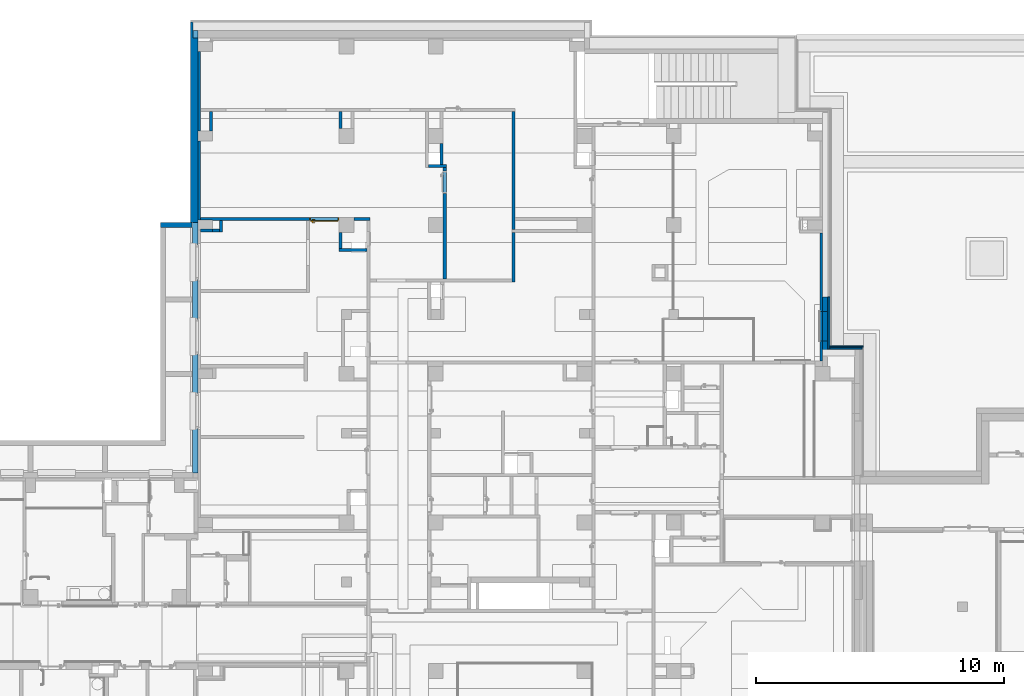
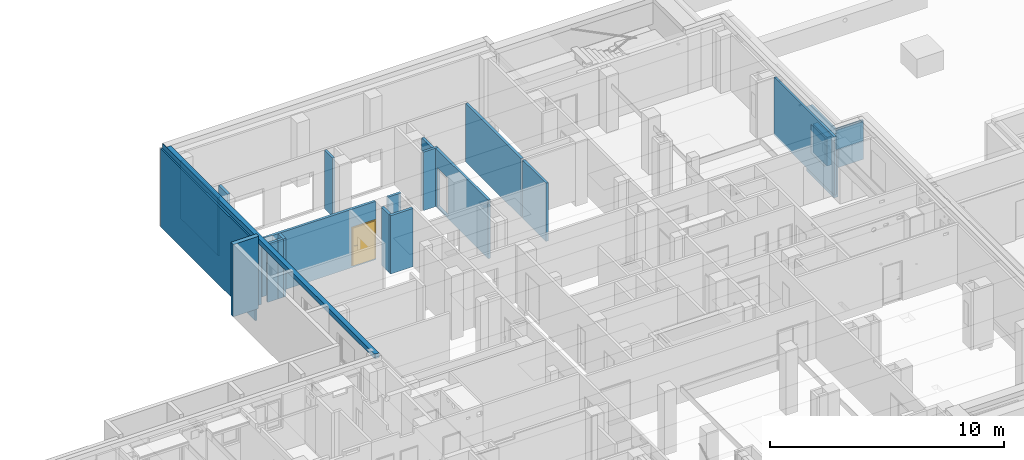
# One storey, part 40 of 84: 25 walls, 1 door, 4 openings.
"""IFC4 building model written with IfcOpenShell, lengths in metres."""

from ifc_helpers import new_model, entity, si_unit, converted_unit, derived_unit, frame, frame_2d, origin, origin_with_axes, place, context, subcontext, project, spatial, polyline, rectangle, outline, extrude, clip, bounded_halfspace, closed_shell, open_shell, surface_model, source, transform, mapped, material, layer, layer_set, layer_usage, type_object, element, fill, save


model = new_model("IFC4")

# Units and contexts
model_context = context("Model", 3, precision=1e-05, world=origin())
body_context = subcontext(model_context, "Body", "Model", "MODEL_VIEW")
ifc_project = project(units=[si_unit("LENGTHUNIT", "METRE"), si_unit("AREAUNIT", "SQUARE_METRE"), si_unit("VOLUMEUNIT", "CUBIC_METRE"), si_unit("MASSUNIT", "GRAM", prefix="KILO"), converted_unit("PLANEANGLEUNIT", "DEGREE", entity("IfcPlaneAngleMeasure", 0.0174532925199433), si_unit("PLANEANGLEUNIT", "RADIAN"), dimensions=[0, 0, 0, 0, 0, 0, 0]), derived_unit("THERMALTRANSMITTANCEUNIT", [(si_unit("POWERUNIT", "WATT"), 1), (si_unit("THERMODYNAMICTEMPERATUREUNIT", "KELVIN"), -1), (si_unit("LENGTHUNIT", "METRE"), -2)]), derived_unit("VOLUMETRICFLOWRATEUNIT", [(si_unit("LENGTHUNIT", "METRE"), 3), (converted_unit("TIMEUNIT", "hour", entity("IfcTimeMeasure", 3600.0), si_unit("TIMEUNIT", "SECOND"), dimensions=[0, 0, 1, 0, 0, 0, 0]), -1), (si_unit("LENGTHUNIT", "METRE"), -1)])], contexts=[model_context])

# Site, building, storey
site_placement = place(None, origin())
site = spatial("IfcSite", under=ifc_project, at=site_placement, Name="3. ASŘ", CompositionType="ELEMENT")
building_placement = place(site_placement, origin())
building = spatial("IfcBuilding", under=site, at=building_placement, Name="Pavilon C", CompositionType="ELEMENT")
storey_placement = place(building_placement, frame((0.0, 0.0, -3.3)))
storey = spatial("IfcBuildingStorey", under=building, at=storey_placement, Name="Půdorys 1.PP", CompositionType="ELEMENT", Elevation=-3.3)

# Walls
ifc_material_1 = material(Name="ZELEZOBETONOVÁ KCE")
ifc_layer_1 = layer(ifc_material_1, 0.199999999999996)
ifc_material_2 = material(Name="LIGNOPOR")
ifc_layer_2 = layer(ifc_material_2, 0.025)
ifc_material_3 = material(Name="PÓROBETONOVÉ ZDIVO")
ifc_layer_3 = layer(ifc_material_3, 0.08)
ifc_layer_set_1 = layer_set([ifc_layer_1, ifc_layer_2, ifc_layer_3])
ifc_layer_usage_1 = layer_usage(ifc_layer_set_1, "AXIS2", "POSITIVE", 0.0)
wall_1_placement = place(storey_placement, frame((24.75, 25.3, -1.15), z_axis=(0.0, 0.0, 1.0), x_axis=(4.88319302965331e-16, 1.0, 0.0)))
element("IfcWall", 1, at=wall_1_placement, inside=storey, material=ifc_layer_usage_1, Name="ZELEZOBETONOVÁ KCE", context=body_context, shape_type="Clipping", body=[
    clip(clip(extrude(outline(polyline([(1.48937387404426e-16, -0.305), (7.45, -0.305), (7.45, -0.105), (8.07, -0.105), (8.07, -0.0799999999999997), (8.095, -0.0799999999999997), (8.095, 3.14965950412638e-16), (0.0, 0.0), (1.48937387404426e-16, -0.305)])), frame((-1.48937387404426e-16, 0.305, 0.0), z_axis=(0.0, 0.0, 1.0), x_axis=(1.0, 0.0, 0.0)), (0.0, 0.0, 1.0), 4.1), bounded_halfspace(frame((3.725, 0.100000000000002, 0.750000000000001), z_axis=(0.0, 0.0, 1.0), x_axis=(4.88319302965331e-16, -1.0, 0.0)), True, origin_with_axes(), polyline([(-9.76638605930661e-17, 0.2), (0.0, 0.0), (7.45, 2.01948391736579e-30), (7.45, 0.2), (-9.76638605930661e-17, 0.2)]))), bounded_halfspace(frame((4.718, 0.210000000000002, 1.15), z_axis=(0.0, 0.0, 1.0), x_axis=(4.88319302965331e-16, -1.0, 0.0)), True, origin_with_axes(), polyline([(-1.09871843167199e-16, 0.225), (-9.76638605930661e-17, 0.2), (7.45, 0.2), (8.07, 0.2), (8.07, 0.225), (-1.09871843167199e-16, 0.225)]))),
])
ifc_material_4 = material(Name="ZELEZOBETONOVÁ KCE")
ifc_layer_4 = layer(ifc_material_4, 0.2)
ifc_layer_set_2 = layer_set([ifc_layer_4])
ifc_layer_usage_2 = layer_usage(ifc_layer_set_2, "AXIS2", "POSITIVE", -0.1)
wall_2_placement = place(storey_placement, frame((23.245, 25.1, -0.4)))
element("IfcWall", 2, at=wall_2_placement, inside=storey, material=ifc_layer_usage_2, Name="ZELEZOBETONOVÁ KCE", context=body_context, shape_type="SweptSolid", body=[
    extrude(rectangle(XDim=1.26, YDim=0.2, at=frame_2d((0.63, 0.1), x_axis=(1.0, 0.0))), origin_with_axes(), (0.0, 0.0, 1.0), 3.78),
])

# Wall, opening
ifc_material_5 = material(Name="ZELEZOBETONOVÁ KCE")
ifc_layer_5 = layer(ifc_material_5, 0.2)
ifc_material_6 = material(Name="LIGNOPOR")
ifc_layer_6 = layer(ifc_material_6, 0.025)
ifc_material_7 = material(Name="PÓROBETONOVÉ ZDIVO")
ifc_layer_7 = layer(ifc_material_7, 0.08)
ifc_layer_set_3 = layer_set([ifc_layer_5, ifc_layer_6, ifc_layer_7])
ifc_layer_usage_3 = layer_usage(ifc_layer_set_3, "AXIS2", "POSITIVE", 0.0)
wall_3_placement = place(storey_placement, frame((49.95, 22.3, -0.4), z_axis=(0.0, 0.0, 1.0), x_axis=(0.0, -1.0, 0.0)))
wall_3 = element("IfcWall", 3, at=wall_3_placement, inside=storey, material=ifc_layer_usage_3, Name="ZELEZOBETONOVÁ KCE", context=body_context, shape_type="Clipping", body=[
    clip(clip(extrude(outline(polyline([(-2.38, 0.0), (0.0, 0.0), (0.0, 0.2), (-0.25, 0.2), (-0.25, 0.225), (-0.275, 0.225), (-0.275, 0.305), (-2.38, 0.305), (-2.38, 0.0)])), frame((2.38, 0.0, 0.0), z_axis=(0.0, 0.0, 1.0), x_axis=(1.0, 0.0, 0.0)), (0.0, 0.0, 1.0), 3.35), bounded_halfspace(frame((1.273, 0.215000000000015, 0.4), z_axis=(0.0, 0.0, 1.0), x_axis=(-1.0, 0.0, 0.0)), True, origin_with_axes(), polyline([(2.105, 0.225000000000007), (0.0, 0.225000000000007), (0.0, 0.2), (2.13, 0.200000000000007), (2.13, 0.225000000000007), (2.105, 0.225000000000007)]))), bounded_halfspace(frame((1.0525, 0.265000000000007, 1.3), z_axis=(0.0, 0.0, -1.0), x_axis=(1.0, 0.0, 0.0)), True, origin_with_axes(), polyline([(0.0, 0.225000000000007), (2.105, 0.225000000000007), (2.105, 0.305000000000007), (0.0, 0.305000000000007), (0.0, 0.225000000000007)]))),
])
opening_1_placement = place(wall_3_placement, frame((1.78, 0.2, 1.3), z_axis=(0.0, -1.0, 0.0), x_axis=(0.0, 0.0, 1.0)))
element("IfcOpeningElement", 4, at=opening_1_placement, cuts=wall_3, Name="Okenní otvor", ObjectType="Opening", context=body_context, shape_type="SweptSolid", body=[
    extrude(outline(polyline([(0.0, 1.2), (1.5, 1.2), (1.5, 0.0), (0.0, 0.0), (0.0, 1.2)])), origin_with_axes(), (0.0, 0.0, 1.0), 0.2),
    extrude(outline(polyline([(0.0, 1.2), (1.5, 1.2), (1.5, 0.0), (0.0, 0.0), (0.0, 1.2)])), frame((0.0, 0.0, -0.025), z_axis=(0.0, 0.0, 1.0), x_axis=(1.0, 0.0, 0.0)), (0.0, 0.0, 1.0), 0.025),
    extrude(outline(polyline([(0.0, 1.2), (1.5, 1.2), (1.5, 0.0), (0.0, 0.0), (0.0, 1.2)])), frame((0.0, 0.0, -0.105), z_axis=(0.0, 0.0, 1.0), x_axis=(1.0, 0.0, 0.0)), (0.0, 0.0, 1.0), 0.08),
])

ifc_material_8 = material(Name="PÓROBETONOVÉ ZDIVO")
ifc_layer_8 = layer(ifc_material_8, 0.1)
ifc_layer_set_4 = layer_set([ifc_layer_8])
ifc_layer_usage_4 = layer_usage(ifc_layer_set_4, "AXIS2", "POSITIVE", 0.0)
wall_4_placement = place(storey_placement, frame((49.95, 19.725, -0.1), z_axis=(0.0, 0.0, 1.0), x_axis=(0.0, 1.0, 0.0)))
wall_4 = element("IfcWall", 5, at=wall_4_placement, inside=storey, material=ifc_layer_usage_4, Name="PÓROBETONOVÉ ZDIVO", context=body_context, shape_type="SweptSolid", body=[
    extrude(rectangle(XDim=5.15, YDim=0.1, at=frame_2d((2.575, 0.05), x_axis=(1.0, 0.0))), origin_with_axes(), (0.0, 0.0, 1.0), 3.05),
])
opening_2_placement = place(wall_4_placement, frame((1.99499999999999, 0.1, 1.0), z_axis=(0.0, -1.0, 0.0), x_axis=(0.0, 0.0, 1.0)))
element("IfcOpeningElement", 6, at=opening_2_placement, cuts=wall_4, Name="Okenní otvor", ObjectType="Opening", context=body_context, shape_type="SweptSolid", body=[
    extrude(outline(polyline([(0.0, 1.2), (1.5, 1.2), (1.5, 0.0), (0.0, 0.0), (0.0, 1.2)])), origin_with_axes(), (0.0, 0.0, 1.0), 0.1),
])

# Walls
ifc_material_9 = material(Name="ZDIVO Z CDm")
ifc_layer_9 = layer(ifc_material_9, 0.125)
ifc_layer_set_5 = layer_set([ifc_layer_9])
ifc_layer_usage_5 = layer_usage(ifc_layer_set_5, "AXIS2", "POSITIVE", 0.0)
wall_5_placement = place(storey_placement, frame((31.7, 25.5, -0.1), z_axis=(0.0, 0.0, 1.0), x_axis=(-1.0, 0.0, 0.0)))
element("IfcWall", 7, at=wall_5_placement, inside=storey, material=ifc_layer_usage_5, Name="ZDIVO Z CDm", context=body_context, shape_type="SweptSolid", body=[
    extrude(rectangle(XDim=0.649999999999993, YDim=0.125, at=frame_2d((0.324999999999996, 0.0625), x_axis=(1.0, 0.0))), origin_with_axes(), (0.0, 0.0, 1.0), 3.05),
])
ifc_material_10 = material(Name="ZDIVO Z CDm")
ifc_layer_10 = layer(ifc_material_10, 0.125)
ifc_layer_set_6 = layer_set([ifc_layer_10])
ifc_layer_usage_6 = layer_usage(ifc_layer_set_6, "AXIS2", "POSITIVE", 0.0)
wall_6_placement = place(storey_placement, frame((30.45, 24.125, -0.1)))
element("IfcWall", 8, at=wall_6_placement, inside=storey, material=ifc_layer_usage_6, Name="ZDIVO Z CDm", context=body_context, shape_type="SweptSolid", body=[
    extrude(rectangle(XDim=1.12499999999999, YDim=0.125, at=frame_2d((0.562499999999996, 0.0625), x_axis=(1.0, 0.0))), origin_with_axes(), (0.0, 0.0, 1.0), 3.05),
])
ifc_material_11 = material(Name="ZDIVO Z CDm")
ifc_layer_11 = layer(ifc_material_11, 0.125)
ifc_layer_set_7 = layer_set([ifc_layer_11])
ifc_layer_usage_7 = layer_usage(ifc_layer_set_7, "AXIS2", "POSITIVE", 0.0)
wall_7_placement = place(storey_placement, frame((30.45, 24.9, -0.1), z_axis=(0.0, 0.0, 1.0), x_axis=(0.0, -1.0, 0.0)))
element("IfcWall", 9, at=wall_7_placement, inside=storey, material=ifc_layer_usage_7, Name="ZDIVO Z CDm", context=body_context, shape_type="SweptSolid", body=[
    extrude(rectangle(XDim=0.65, YDim=0.125, at=frame_2d((0.325, 0.0625), x_axis=(1.0, 0.0))), origin_with_axes(), (0.0, 0.0, 1.0), 3.05),
])
ifc_material_12 = material(Name="ZDIVO Z CDm")
ifc_layer_12 = layer(ifc_material_12, 0.125)
ifc_layer_set_8 = layer_set([ifc_layer_12])
ifc_layer_usage_8 = layer_usage(ifc_layer_set_8, "AXIS2", "POSITIVE", 0.0)
wall_8_placement = place(storey_placement, frame((25.75, 24.925, -0.1), z_axis=(0.0, 0.0, 1.0), x_axis=(0.0, 1.0, 0.0)))
element("IfcWall", 10, at=wall_8_placement, inside=storey, material=ifc_layer_usage_8, Name="ZDIVO Z CDm", context=body_context, shape_type="SweptSolid", body=[
    extrude(rectangle(XDim=0.45, YDim=0.125, at=frame_2d((0.225, 0.0625), x_axis=(1.0, 0.0))), origin_with_axes(), (0.0, 0.0, 1.0), 3.05),
])
ifc_material_13 = material(Name="ZDIVO Z CDm")
ifc_layer_13 = layer(ifc_material_13, 0.125)
ifc_layer_set_9 = layer_set([ifc_layer_13])
ifc_layer_usage_9 = layer_usage(ifc_layer_set_9, "AXIS2", "POSITIVE", 0.0)
wall_9_placement = place(storey_placement, frame((25.35, 24.925, -0.1)))
element("IfcWall", 11, at=wall_9_placement, inside=storey, material=ifc_layer_usage_9, Name="ZDIVO Z CDm", context=body_context, shape_type="SweptSolid", body=[
    extrude(rectangle(XDim=0.275000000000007, YDim=0.125, at=frame_2d((0.137500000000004, 0.0625), x_axis=(1.0, 0.0))), origin_with_axes(), (0.0, 0.0, 1.0), 3.05),
])
ifc_material_14 = material(Name="ZDIVO Z CDm")
ifc_layer_14 = layer(ifc_material_14, 0.125)
ifc_layer_set_10 = layer_set([ifc_layer_14])
ifc_layer_usage_10 = layer_usage(ifc_layer_set_10, "AXIS2", "POSITIVE", 0.0)
wall_10_placement = place(storey_placement, frame((24.85, 24.925, -0.1)))
element("IfcWall", 12, at=wall_10_placement, inside=storey, material=ifc_layer_usage_10, Name="ZDIVO Z CDm", context=body_context, shape_type="SweptSolid", body=[
    extrude(rectangle(XDim=0.499999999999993, YDim=0.125, at=frame_2d((0.249999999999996, 0.0625), x_axis=(1.0, 0.0))), origin_with_axes(), (0.0, 0.0, 1.0), 3.05),
])
ifc_material_15 = material(Name="ZDIVO Z CDm")
wall_11_placement = place(storey_placement, frame((37.555, 22.905, -0.1), z_axis=(0.0, 0.0, 1.0), x_axis=(0.0, 1.0, 0.0)))
element("IfcWall", 13, at=wall_11_placement, inside=storey, material=ifc_material_15, Name="ZDIVO Z CDm", context=body_context, shape_type="SweptSolid", body=[
    extrude(rectangle(XDim=4.76, YDim=0.125, at=frame_2d((2.38, 0.0625), x_axis=(1.0, 0.0))), frame((2.12, 0.0, 0.0), z_axis=(0.0, 0.0, 1.0), x_axis=(1.0, 0.0, 0.0)), (0.0, 0.0, 1.0), 3.05),
    extrude(rectangle(XDim=0.125, YDim=1.995, at=frame_2d((0.9975, -0.0625), x_axis=(0.0, -1.0))), frame((0.0, 0.125, 0.0), z_axis=(0.0, 0.0, 1.0), x_axis=(1.0, 0.0, 0.0)), (0.0, 0.0, 1.0), 3.05),
])
ifc_material_16 = material(Name="ZDIVO Z CDm")
ifc_layer_15 = layer(ifc_material_16, 0.125)
ifc_layer_set_11 = layer_set([ifc_layer_15])
ifc_layer_usage_11 = layer_usage(ifc_layer_set_11, "AXIS2", "POSITIVE", 0.0)
wall_12_placement = place(storey_placement, frame((30.45, 29.785, -0.1), z_axis=(0.0, 0.0, 1.0), x_axis=(0.0, -1.0, 0.0)))
element("IfcWall", 14, at=wall_12_placement, inside=storey, material=ifc_layer_usage_11, Name="ZDIVO Z CDm", context=body_context, shape_type="SweptSolid", body=[
    extrude(rectangle(XDim=0.685, YDim=0.125, at=frame_2d((0.3425, 0.0625), x_axis=(1.0, 0.0))), origin_with_axes(), (0.0, 0.0, 1.0), 3.05),
])
ifc_material_17 = material(Name="ZDIVO Z CDm")
ifc_layer_16 = layer(ifc_material_17, 0.125)
ifc_layer_set_12 = layer_set([ifc_layer_16])
ifc_layer_usage_12 = layer_usage(ifc_layer_set_12, "AXIS2", "POSITIVE", 0.0)
wall_13_placement = place(storey_placement, frame((34.05, 27.525, -0.1)))
element("IfcWall", 15, at=wall_13_placement, inside=storey, material=ifc_layer_usage_12, Name="ZDIVO Z CDm", context=body_context, shape_type="SweptSolid", body=[
    extrude(rectangle(XDim=0.725, YDim=0.125, at=frame_2d((0.3625, 0.0625), x_axis=(1.0, 0.0))), origin_with_axes(), (0.0, 0.0, 1.0), 3.05),
])

# Wall, opening
ifc_material_18 = material(Name="ZDIVO Z CDm")
ifc_layer_17 = layer(ifc_material_18, 0.125)
ifc_layer_set_13 = layer_set([ifc_layer_17])
ifc_layer_usage_13 = layer_usage(ifc_layer_set_13, "AXIS2", "POSITIVE", 0.0)
wall_14_placement = place(storey_placement, frame((34.65, 27.525, -0.1), z_axis=(0.0, 0.0, 1.0), x_axis=(0.0, -1.0, 0.0)))
wall_14 = element("IfcWall", 16, at=wall_14_placement, inside=storey, material=ifc_layer_usage_13, Name="ZDIVO Z CDm", context=body_context, shape_type="SweptSolid", body=[
    extrude(rectangle(XDim=4.495, YDim=0.125, at=frame_2d((2.2475, 0.0625), x_axis=(1.0, 0.0))), origin_with_axes(), (0.0, 0.0, 1.0), 3.05),
])
opening_3_placement = place(wall_14_placement, frame((0.150000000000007, 0.0, 0.1), z_axis=(0.0, 1.0, 0.0), x_axis=(0.0, 0.0, 1.0)))
element("IfcOpeningElement", 17, at=opening_3_placement, cuts=wall_14, Name="Dveřní otvor", ObjectType="Opening", context=body_context, shape_type="SweptSolid", body=[
    extrude(outline(polyline([(0.0, 0.9), (2.02, 0.9), (2.02, 0.0), (0.0, 0.0), (0.0, 0.9)])), origin_with_axes(), (0.0, 0.0, 1.0), 0.125),
])

# Walls
ifc_material_19 = material(Name="ZDIVO Z CDm")
ifc_layer_18 = layer(ifc_material_19, 0.125)
ifc_layer_set_14 = layer_set([ifc_layer_18])
ifc_layer_usage_14 = layer_usage(ifc_layer_set_14, "AXIS2", "POSITIVE", 0.0)
wall_15_placement = place(storey_placement, frame((34.65, 27.65, -0.1), z_axis=(0.0, 0.0, 1.0), x_axis=(0.0, 1.0, 0.0)))
element("IfcWall", 18, at=wall_15_placement, inside=storey, material=ifc_layer_usage_14, Name="ZDIVO Z CDm", context=body_context, shape_type="SweptSolid", body=[
    extrude(rectangle(XDim=0.85, YDim=0.125, at=frame_2d((0.425, 0.0625), x_axis=(1.0, 0.0))), origin_with_axes(), (0.0, 0.0, 1.0), 3.05),
])
ifc_material_20 = material(Name="PÓROBETONOVÉ ZDIVO")
ifc_layer_19 = layer(ifc_material_20, 0.1)
ifc_layer_set_15 = layer_set([ifc_layer_19])
ifc_layer_usage_15 = layer_usage(ifc_layer_set_15, "AXIS2", "POSITIVE", 0.0)
wall_16_placement = place(storey_placement, frame((24.75, 28.6, -0.1), z_axis=(0.0, 0.0, 1.0), x_axis=(-1.13686837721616e-15, -1.0, 0.0)))
element("IfcWall", 19, at=wall_16_placement, inside=storey, material=ifc_layer_usage_15, Name="PÓROBETONOVÉ ZDIVO", context=body_context, shape_type="SweptSolid", body=[
    extrude(rectangle(XDim=3.2, YDim=0.1, at=frame_2d((1.6, 0.05), x_axis=(1.0, 0.0))), origin_with_axes(), (0.0, 0.0, 1.0), 3.05),
])
ifc_material_21 = material(Name="PÓROBETONOVÉ ZDIVO")
ifc_layer_20 = layer(ifc_material_21, 0.1)
ifc_layer_set_16 = layer_set([ifc_layer_20])
ifc_layer_usage_16 = layer_usage(ifc_layer_set_16, "AXIS2", "POSITIVE", 0.0)
wall_17_placement = place(storey_placement, frame((24.75, 32.2, -0.1), z_axis=(0.0, 0.0, 1.0), x_axis=(0.0, -1.0, 0.0)))
element("IfcWall", 20, at=wall_17_placement, inside=storey, material=ifc_layer_usage_16, Name="PÓROBETONOVÉ ZDIVO", context=body_context, shape_type="SweptSolid", body=[
    extrude(rectangle(XDim=3.2, YDim=0.1, at=frame_2d((1.6, 0.05), x_axis=(1.0, 0.0))), origin_with_axes(), (0.0, 0.0, 1.0), 3.05),
])

# Wall, opening, door
ifc_material_22 = material(Name="ZDIVO Z CDm")
ifc_layer_21 = layer(ifc_material_22, 0.125)
ifc_layer_set_17 = layer_set([ifc_layer_21])
ifc_layer_usage_17 = layer_usage(ifc_layer_set_17, "AXIS2", "POSITIVE", 0.0)
wall_18_placement = place(storey_placement, frame((30.45, 25.5, -0.1), z_axis=(0.0, 0.0, 1.0), x_axis=(-1.0, 0.0, 0.0)))
wall_18 = element("IfcWall", 21, at=wall_18_placement, inside=storey, material=ifc_layer_usage_17, Name="ZDIVO Z CDm", context=body_context, shape_type="SweptSolid", body=[
    extrude(outline(polyline([(-5.6, -0.125), (0.0, -0.125), (0.0, -0.025), (-0.499999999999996, -0.025), (-0.499999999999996, 0.0), (-5.6, 0.0), (-5.6, -0.125)])), frame((5.6, 0.125, 0.0), z_axis=(0.0, 0.0, 1.0), x_axis=(1.0, 0.0, 0.0)), (0.0, 0.0, 1.0), 3.05),
])
opening_4_placement = place(wall_18_placement, frame((1.2, 0.125, 0.1), z_axis=(0.0, -1.0, 0.0), x_axis=(0.0, 0.0, 1.0)))
opening_4 = element("IfcOpeningElement", 22, at=opening_4_placement, cuts=wall_18, Name="Dveřní otvor", ObjectType="Opening", context=body_context, shape_type="SweptSolid", body=[
    extrude(outline(polyline([(0.0, 1.2), (2.02, 1.2), (2.02, 0.0), (0.0, 0.0), (0.0, 1.2)])), origin_with_axes(), (0.0, 0.0, 1.0), 0.125),
])
door_type = type_object("IfcDoorType", Name="D101", OperationType="NOTDEFINED", ParameterTakesPrecedence=False, PredefinedType="DOOR")
shared_shape = source(origin_with_axes(), body_context, "Body", "SurfaceModel", [
    surface_model("IfcShellBasedSurfaceModel", [(0.0, 0.125, 2.02), (0.0, 0.125, -7.65404249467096e-18), (0.05, 0.125, -7.65404249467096e-18), (0.05, 0.125, 2.02), (0.0, 0.0, 7.65404249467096e-18), (0.0, 2.41584530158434e-16, 2.02), (0.05, 2.41584530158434e-16, 2.02), (0.05, 0.0, 7.65404249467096e-18)], [closed_shell([[[0, 1, 2, 3]], [[4, 5, 6, 7]], [[1, 0, 5, 4]], [[2, 1, 4, 7]], [[3, 2, 7, 6]], [[0, 3, 6, 5]]], orient=[[False], [False], [False], [False], [False], [False]])]),
    surface_model("IfcShellBasedSurfaceModel", [(1.15, 0.125, 2.02), (1.15, 0.125, -7.65404249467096e-18), (1.2, 0.125, -7.65404249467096e-18), (1.2, 0.125, 2.02), (1.15, 0.0, 7.65404249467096e-18), (1.15, 2.41584530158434e-16, 2.02), (1.2, 2.41584530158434e-16, 2.02), (1.2, 0.0, 7.65404249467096e-18)], [closed_shell([[[0, 1, 2, 3]], [[4, 5, 6, 7]], [[1, 0, 5, 4]], [[2, 1, 4, 7]], [[3, 2, 7, 6]], [[0, 3, 6, 5]]], orient=[[False], [False], [False], [False], [False], [False]])]),
    surface_model("IfcShellBasedSurfaceModel", [(0.05, 0.125, 2.02), (0.05, 0.125, 1.97), (1.15, 0.125, 1.97), (1.15, 0.125, 2.02), (0.05, 2.41584530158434e-16, 1.97), (0.05, 2.41584530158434e-16, 2.02), (1.15, 2.41584530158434e-16, 2.02), (1.15, 2.41584530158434e-16, 1.97)], [closed_shell([[[0, 1, 2, 3]], [[4, 5, 6, 7]], [[1, 0, 5, 4]], [[2, 1, 4, 7]], [[3, 2, 7, 6]], [[0, 3, 6, 5]]], orient=[[False], [False], [False], [False], [False], [False]])]),
    surface_model("IfcShellBasedSurfaceModel", [(0.05, 0.165, 1.97), (0.05, 0.165, -1.25526296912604e-17), (1.15, 0.165, -1.25526296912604e-17), (1.15, 0.165, 1.97), (0.05, 0.125, -7.65404249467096e-18), (0.05, 0.125, 1.97), (1.15, 0.125, 1.97), (1.15, 0.125, -7.65404249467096e-18)], [closed_shell([[[0, 1, 2, 3]], [[4, 5, 6, 7]], [[1, 0, 5, 4]], [[2, 1, 4, 7]], [[3, 2, 7, 6]], [[0, 3, 6, 5]]], orient=[[False], [False], [False], [False], [False], [False]])]),
    surface_model("IfcShellBasedSurfaceModel", [(1.06, 0.125, 1.125), (1.06, 0.125, 0.91), (1.11, 0.125, 0.91), (1.11, 0.125, 1.125), (1.06, 0.115, 0.91), (1.06, 0.115, 1.125), (1.11, 0.115, 1.125), (1.11, 0.115, 0.91)], [closed_shell([[[0, 1, 2, 3]], [[4, 5, 6, 7]], [[1, 0, 5, 4]], [[2, 1, 4, 7]], [[3, 2, 7, 6]], [[0, 3, 6, 5]]], orient=[[False], [False], [False], [False], [False], [False]])]),
    surface_model("IfcShellBasedSurfaceModel", [(1.085, 0.115, 1.06), (1.08, 0.115, 1.05866025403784), (1.07633974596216, 0.115, 1.055), (1.075, 0.115, 1.05), (1.07633974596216, 0.115, 1.045), (1.08, 0.115, 1.04133974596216), (1.085, 0.115, 1.04), (1.09, 0.115, 1.04133974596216), (1.09366025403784, 0.115, 1.045), (1.095, 0.115, 1.05), (1.09366025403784, 0.115, 1.055), (1.09, 0.115, 1.05866025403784), (1.09, 0.0700000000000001, 1.05866025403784), (1.085, 0.0750000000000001, 1.06), (1.09366025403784, 0.0663397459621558, 1.055), (1.095, 0.0650000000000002, 1.05), (1.09366025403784, 0.0663397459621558, 1.045), (1.09, 0.0700000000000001, 1.04133974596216), (1.085, 0.0750000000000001, 1.04), (1.08, 0.0800000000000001, 1.04133974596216), (1.07633974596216, 0.0836602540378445, 1.045), (1.075, 0.0850000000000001, 1.05), (1.07633974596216, 0.0836602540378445, 1.055), (1.08, 0.0800000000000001, 1.05866025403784), (0.97, 0.0700000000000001, 1.05866025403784), (0.97, 0.0750000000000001, 1.06), (0.97, 0.0663397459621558, 1.055), (0.97, 0.0650000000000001, 1.05), (0.97, 0.0663397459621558, 1.045), (0.97, 0.0700000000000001, 1.04133974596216), (0.97, 0.0750000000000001, 1.04), (0.97, 0.0800000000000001, 1.04133974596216), (0.97, 0.0836602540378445, 1.045), (0.97, 0.0850000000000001, 1.05), (0.97, 0.0836602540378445, 1.055), (0.97, 0.0800000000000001, 1.05866025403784)], [open_shell([[[0, 1, 2, 3, 4, 5, 6, 7, 8, 9, 10, 11]], [[0, 11, 12, 13]], [[11, 10, 14, 12]], [[10, 9, 15, 14]], [[9, 8, 16, 15]], [[8, 7, 17, 16]], [[7, 6, 18, 17]], [[6, 5, 19, 18]], [[5, 4, 20, 19]], [[4, 3, 21, 20]], [[3, 2, 22, 21]], [[2, 1, 23, 22]], [[1, 0, 13, 23]], [[13, 12, 24, 25]], [[12, 14, 26, 24]], [[14, 15, 27, 26]], [[15, 16, 28, 27]], [[16, 17, 29, 28]], [[17, 18, 30, 29]], [[18, 19, 31, 30]], [[19, 20, 32, 31]], [[20, 21, 33, 32]], [[21, 22, 34, 33]], [[22, 23, 35, 34]], [[23, 13, 25, 35]]], orient=[[False], [False], [False], [False], [False], [False], [False], [False], [False], [False], [False], [False], [False], [False], [False], [False], [False], [False], [False], [False], [False], [False], [False], [False], [False]])]),
    surface_model("IfcShellBasedSurfaceModel", [(1.06, 0.165, 1.125), (1.11, 0.165, 1.125), (1.11, 0.165, 0.91), (1.06, 0.165, 0.91), (1.06, 0.175, 0.91), (1.11, 0.175, 0.91), (1.11, 0.175, 1.125), (1.06, 0.175, 1.125)], [closed_shell([[[0, 1, 2, 3]], [[4, 5, 6, 7]], [[3, 4, 7, 0]], [[2, 5, 4, 3]], [[1, 6, 5, 2]], [[0, 7, 6, 1]]], orient=[[False], [False], [False], [False], [False], [False]])]),
    surface_model("IfcShellBasedSurfaceModel", [(1.085, 0.175, 1.06), (1.09, 0.175, 1.05866025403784), (1.09366025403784, 0.175, 1.055), (1.095, 0.175, 1.05), (1.09366025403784, 0.175, 1.045), (1.09, 0.175, 1.04133974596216), (1.085, 0.175, 1.04), (1.08, 0.175, 1.04133974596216), (1.07633974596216, 0.175, 1.045), (1.075, 0.175, 1.05), (1.07633974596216, 0.175, 1.055), (1.08, 0.175, 1.05866025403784), (1.085, 0.215, 1.06), (1.09, 0.22, 1.05866025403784), (1.09366025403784, 0.223660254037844, 1.055), (1.095, 0.225, 1.05), (1.09366025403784, 0.223660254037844, 1.045), (1.09, 0.22, 1.04133974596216), (1.085, 0.215, 1.04), (1.08, 0.21, 1.04133974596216), (1.07633974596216, 0.206339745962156, 1.045), (1.075, 0.205, 1.05), (1.07633974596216, 0.206339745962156, 1.055), (1.08, 0.21, 1.05866025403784), (0.97, 0.215, 1.06), (0.97, 0.22, 1.05866025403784), (0.97, 0.223660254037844, 1.055), (0.97, 0.225, 1.05), (0.97, 0.223660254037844, 1.045), (0.97, 0.22, 1.04133974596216), (0.97, 0.215, 1.04), (0.97, 0.21, 1.04133974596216), (0.97, 0.206339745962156, 1.045), (0.97, 0.205, 1.05), (0.97, 0.206339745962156, 1.055), (0.97, 0.21, 1.05866025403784)], [open_shell([[[0, 1, 2, 3, 4, 5, 6, 7, 8, 9, 10, 11]], [[0, 12, 13, 1]], [[1, 13, 14, 2]], [[2, 14, 15, 3]], [[3, 15, 16, 4]], [[4, 16, 17, 5]], [[5, 17, 18, 6]], [[6, 18, 19, 7]], [[7, 19, 20, 8]], [[8, 20, 21, 9]], [[9, 21, 22, 10]], [[10, 22, 23, 11]], [[11, 23, 12, 0]], [[12, 24, 25, 13]], [[13, 25, 26, 14]], [[14, 26, 27, 15]], [[15, 27, 28, 16]], [[16, 28, 29, 17]], [[17, 29, 30, 18]], [[18, 30, 31, 19]], [[19, 31, 32, 20]], [[20, 32, 33, 21]], [[21, 33, 34, 22]], [[22, 34, 35, 23]], [[23, 35, 24, 12]]], orient=[[False], [False], [False], [False], [False], [False], [False], [False], [False], [False], [False], [False], [False], [False], [False], [False], [False], [False], [False], [False], [False], [False], [False], [False], [False]])]),
])
door_placement = place(opening_4_placement, frame((0.0, 1.2, 0.125), z_axis=(1.0, 0.0, 0.0), x_axis=(0.0, -1.0, 1.22464679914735e-16)))
door = element("IfcDoor", 23, at=door_placement, inside=storey, type_object=door_type, Name="D101", OverallHeight=2.02, OverallWidth=1.2, context=body_context, shape_type="MappedRepresentation", body=[
    mapped(shared_shape, transform((0.0, 0.0, 0.0), x_axis=(1.0, 0.0, 0.0), y_axis=(0.0, 1.0, 0.0), z_axis=(0.0, 0.0, 1.0), scale=1.0)),
])
fill(opening_4, door)

# Walls
ifc_material_23 = material(Name="ZDIVO Z CDm")
ifc_layer_22 = layer(ifc_material_23, 0.125)
ifc_layer_set_18 = layer_set([ifc_layer_22])
ifc_layer_usage_18 = layer_usage(ifc_layer_set_18, "AXIS2", "POSITIVE", 0.0)
wall_19_placement = place(storey_placement, frame((25.35, 29.0, -0.1), z_axis=(0.0, 0.0, 1.0), x_axis=(0.0, 1.0, 0.0)))
element("IfcWall", 24, at=wall_19_placement, inside=storey, material=ifc_layer_usage_18, Name="ZDIVO Z CDm", context=body_context, shape_type="SweptSolid", body=[
    extrude(rectangle(XDim=0.785, YDim=0.125, at=frame_2d((0.3925, 0.0625), x_axis=(1.0, 0.0))), origin_with_axes(), (0.0, 0.0, 1.0), 3.05),
])
ifc_material_24 = material(Name="ZELEZOBETONOVÁ KCE")
ifc_layer_23 = layer(ifc_material_24, 0.2)
ifc_material_25 = material(Name="LIGNOPOR")
ifc_layer_24 = layer(ifc_material_25, 0.025)
ifc_layer_set_19 = layer_set([ifc_layer_23, ifc_layer_24])
ifc_layer_usage_19 = layer_usage(ifc_layer_set_19, "AXIS2", "POSITIVE", 0.0)
wall_20_placement = place(storey_placement, frame((24.75, 15.2, 2.95), z_axis=(0.0, 0.0, 1.0), x_axis=(4.07616673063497e-16, 1.0, 0.0)))
element("IfcWall", 25, at=wall_20_placement, inside=storey, material=ifc_layer_usage_19, context=body_context, shape_type="SweptSolid", body=[
    extrude(outline(polyline([(9.17137514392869e-17, -0.225), (17.85, -0.225), (17.85, -0.025), (18.17, -0.0249999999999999), (18.17, 1.30437335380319e-16), (0.025, 1.01904168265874e-17), (0.025, -0.025), (1.01904168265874e-17, -0.025), (9.17137514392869e-17, -0.225)])), frame((-9.17137514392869e-17, 0.225, 0.0), z_axis=(0.0, 0.0, 1.0), x_axis=(1.0, 0.0, 0.0)), (0.0, 0.0, 1.0), 0.25),
])
ifc_material_26 = material(Name="PERIMETR")
ifc_layer_25 = layer(ifc_material_26, 0.08)
ifc_layer_set_20 = layer_set([ifc_layer_25])
ifc_layer_usage_20 = layer_usage(ifc_layer_set_20, "AXIS2", "POSITIVE", 0.0)
wall_21_placement = place(storey_placement, frame((50.175, 22.3, 0.9), z_axis=(0.0, 0.0, 1.0), x_axis=(0.0, -1.0, 0.0)))
element("IfcWall", 26, at=wall_21_placement, inside=storey, material=ifc_layer_usage_20, Name="PERIMETR", context=body_context, shape_type="SweptSolid", body=[
    extrude(rectangle(XDim=2.105, YDim=0.08, at=frame_2d((1.0525, 0.04), x_axis=(1.0, 0.0))), origin_with_axes(), (0.0, 0.0, 1.0), 2.05),
])
ifc_material_27 = material(Name="PERIMETR")
ifc_layer_26 = layer(ifc_material_27, 0.05)
ifc_layer_set_21 = layer_set([ifc_layer_26])
ifc_layer_usage_21 = layer_usage(ifc_layer_set_21, "AXIS2", "POSITIVE", 0.0)
wall_22_placement = place(storey_placement, frame((50.255, 20.275, 1.8)))
element("IfcWall", 27, at=wall_22_placement, inside=storey, material=ifc_layer_usage_21, Name="PERIMETR", context=body_context, shape_type="SweptSolid", body=[
    extrude(rectangle(XDim=1.35, YDim=0.05, at=frame_2d((0.675, 0.025), x_axis=(1.0, 0.0))), origin_with_axes(), (0.0, 0.0, 1.0), 1.0),
])
ifc_material_28 = material(Name="PERIMETR")
ifc_layer_27 = layer(ifc_material_28, 0.08)
ifc_layer_set_22 = layer_set([ifc_layer_27])
ifc_layer_usage_22 = layer_usage(ifc_layer_set_22, "AXIS2", "POSITIVE", 0.0)
wall_23_placement = place(storey_placement, frame((50.255, 20.195, 0.9)))
element("IfcWall", 28, at=wall_23_placement, inside=storey, material=ifc_layer_usage_22, Name="PERIMETR", context=body_context, shape_type="SweptSolid", body=[
    extrude(rectangle(XDim=1.3, YDim=0.08, at=frame_2d((0.65, 0.04), x_axis=(1.0, 0.0))), origin_with_axes(), (0.0, 0.0, 1.0), 2.05),
])
ifc_material_29 = material(Name="YTONG 100")
ifc_layer_28 = layer(ifc_material_29, 0.1)
ifc_layer_set_23 = layer_set([ifc_layer_28])
ifc_layer_usage_23 = layer_usage(ifc_layer_set_23, "AXIS2", "POSITIVE", 0.0)
wall_24_placement = place(storey_placement, frame((49.85, 21.72, 0.9), z_axis=(0.0, 0.0, 1.0), x_axis=(0.0, -1.0, 0.0)))
element("IfcWall", 29, at=wall_24_placement, inside=storey, material=ifc_layer_usage_23, Name="YTONG 100", context=body_context, shape_type="SweptSolid", body=[
    extrude(rectangle(XDim=1.2, YDim=0.1, at=frame_2d((0.6, 0.05), x_axis=(1.0, 0.0))), origin_with_axes(), (0.0, 0.0, 1.0), 1.5),
])
ifc_material_30 = material(Name="ZELEZOBETONOVÁ KCE")
ifc_layer_29 = layer(ifc_material_30, 0.225)
ifc_layer_set_24 = layer_set([ifc_layer_29])
ifc_layer_usage_24 = layer_usage(ifc_layer_set_24, "AXIS2", "POSITIVE", 0.0)
wall_25_placement = place(storey_placement, frame((49.95, 21.72, 0.9), z_axis=(0.0, 0.0, 1.0), x_axis=(0.0, -1.0, 0.0)))
element("IfcWall", 30, at=wall_25_placement, inside=storey, material=ifc_layer_usage_24, Name="ZELEZOBETONOVÁ KCE", context=body_context, shape_type="SweptSolid", body=[
    extrude(rectangle(XDim=1.2, YDim=0.225, at=frame_2d((0.6, 0.1125), x_axis=(1.0, 0.0))), origin_with_axes(), (0.0, 0.0, 1.0), 1.5),
])

save(model, "model.ifc")
